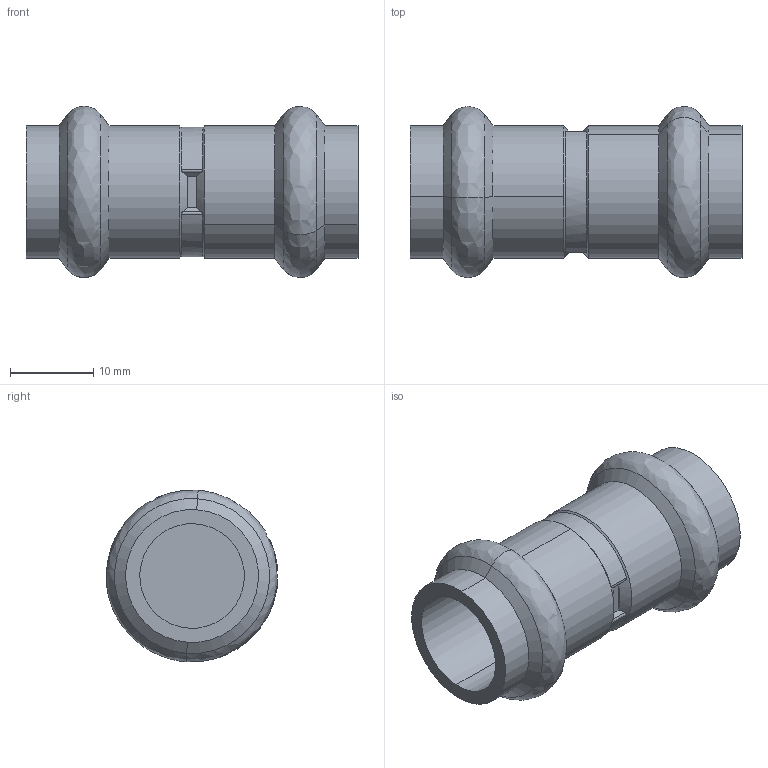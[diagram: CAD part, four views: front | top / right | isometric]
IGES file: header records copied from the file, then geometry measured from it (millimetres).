
Start section: 3D InterOp IGES (v. 2024 1.0.1), Spatial Corp. Copyright (c) 1999-2020.
Global section: file name: 704183.igs; native system: Spatial Corp.; preprocessor: 3D InterOp ACIS/IGES; author: CAD-PIM; organization: TransMagic, Inc.; date: 20250429.114756; units: millimetre
Bounding box: 40 x 20.66 x 20.65 mm (x, y, z)
Volume: 4586.1 mm3; surface area: 4197.2 mm2
Topology: 1 solids, 1 shells, 48 faces, 112 edges, 68 vertices
Faces by surface type: bspline 48
